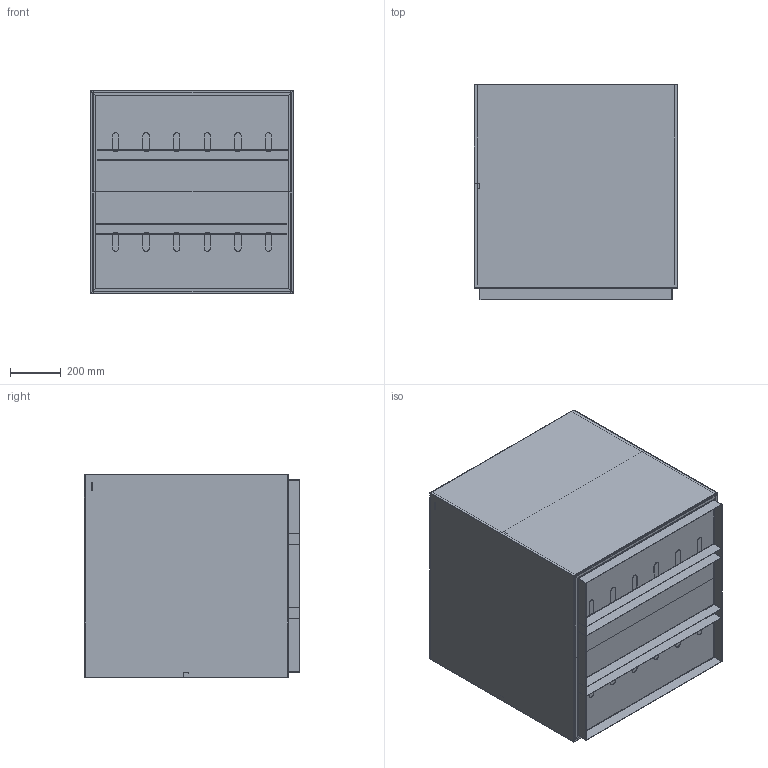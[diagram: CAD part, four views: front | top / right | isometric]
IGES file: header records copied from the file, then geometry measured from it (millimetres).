
Start section: SolidWorks IGES file using analytic representation for surfaces
Global section: file name: C:\VaultDeCastelli\Progetti\DC\PESO LEGGERO PRODOTTI\Ale\DeCastelli-3D-Cube 84.igs; native system: SolidWorks 2022; preprocessor: SolidWorks 2022; author: AlessandroP; date: 240802.102729; units: millimetre
Bounding box: 800 x 845 x 800 mm (x, y, z)
Surface area: 7096433.2 mm2 (no closed solid volume)
Topology: 0 solids, 0 shells, 134 faces, 1157 edges, 1157 vertices
Faces by surface type: bspline 88, revolution 46
